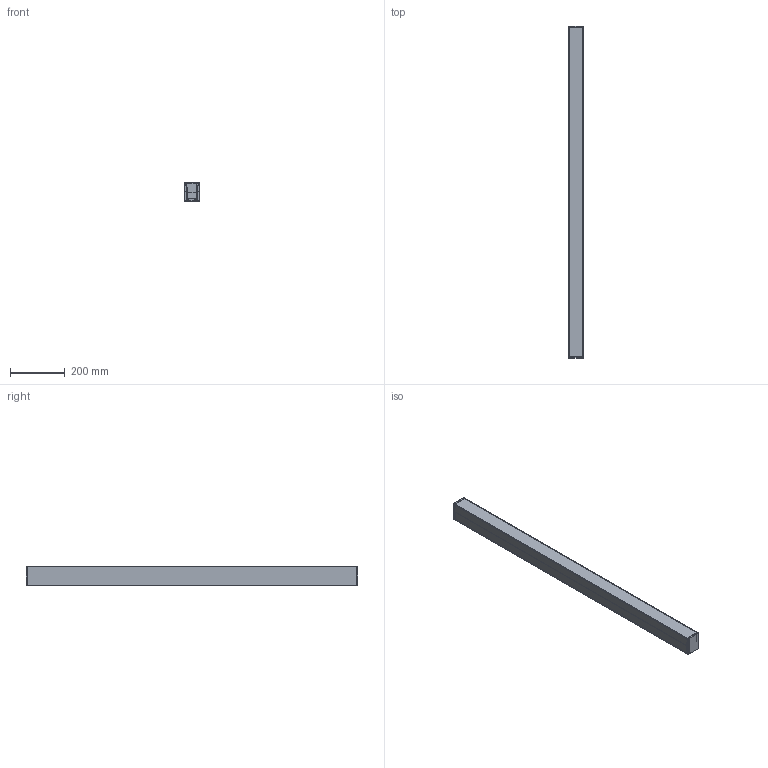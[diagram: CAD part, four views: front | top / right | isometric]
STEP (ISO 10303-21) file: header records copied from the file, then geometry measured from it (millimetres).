
FILE_DESCRIPTION((''),'2;1');
FILE_NAME('ASM0006_ASM','2025-12-13T20:11:17',('86186'),(''),'CREO PARAMETRIC BY PTC INC, 2019010','CREO PARAMETRIC BY PTC INC, 2019010','');
FILE_SCHEMA(('CONFIG_CONTROL_DESIGN'));
Length unit declared in the file: millimetre
Products named in the file (9): 00; 557011_19000; 557000; PRT0013; PRT0011; PRT0014; PRT0012; PRT0016; ASM0006_ASM
Assembly tree (11 placements, depth 2):
  ASM0006_ASM
    00
    557011_19000  x2
    557000  x2
    PRT0013  x2
    PRT0011
    PRT0014
    PRT0012
    PRT0016
Bounding box: 55.1 x 1208.85 x 70 mm (x, y, z)
Volume: 601143.8 mm3; surface area: 1139065.8 mm2
Topology: 12 solids, 16 shells, 2295 faces, 5912 edges, 3918 vertices
Faces by surface type: plane 1847, cylinder 412, cone 24, sphere 8, extrusion 4
Entity records: 61326 total; most frequent: CARTESIAN_POINT 11579, ORIENTED_EDGE 10338, DIRECTION 9636, EDGE_CURVE 5169, VECTOR 4464, LINE 4462, VERTEX_POINT 3435, AXIS2_PLACEMENT_3D 2586
